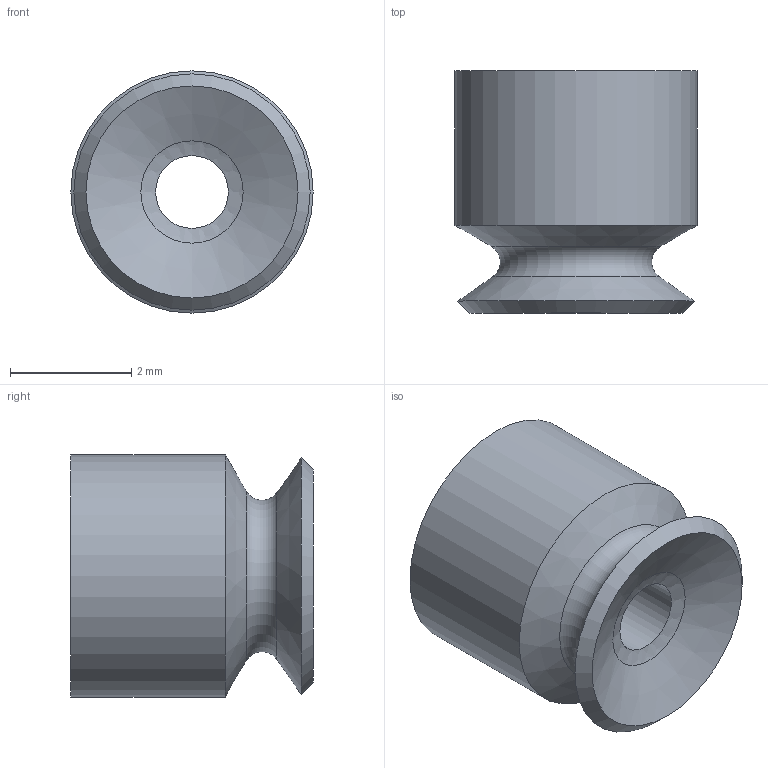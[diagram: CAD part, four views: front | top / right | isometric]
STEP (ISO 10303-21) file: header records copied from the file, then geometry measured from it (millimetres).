
FILE_DESCRIPTION(('STEP AP203'),'1');
FILE_NAME('_3D.stp','2024-06-11T23:24:55',(' '),(' '),'Spatial InterOp 3D',' ',' ');
FILE_SCHEMA(('CONFIG_CONTROL_DESIGN'));
Length unit declared in the file: millimetre
Products named in the file (1): 1
Bounding box: 4 x 4 x 4 mm (x, y, z)
Volume: 28.2 mm3; surface area: 103.3 mm2
Topology: 1 solids, 1 shells, 18 faces, 41 edges, 26 vertices
Faces by surface type: torus 6, cylinder 4, cone 4, plane 3, bspline 1
Full cylindrical faces by diameter (mm): 1.2 x1, 2 x1, 3 x1, 4 x1
Entity records: 435 total; most frequent: CARTESIAN_POINT 82, DIRECTION 72, AXIS2_PLACEMENT_3D 36, EDGE_LOOP 36, ORIENTED_EDGE 36, FACE_OUTER_BOUND 29, ADVANCED_FACE 18, EDGE_CURVE 18
